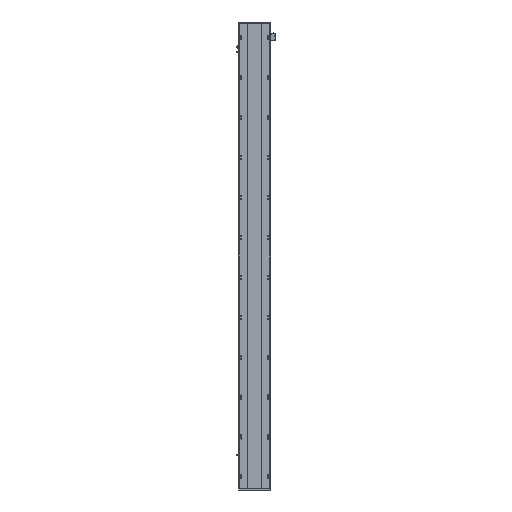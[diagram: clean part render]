
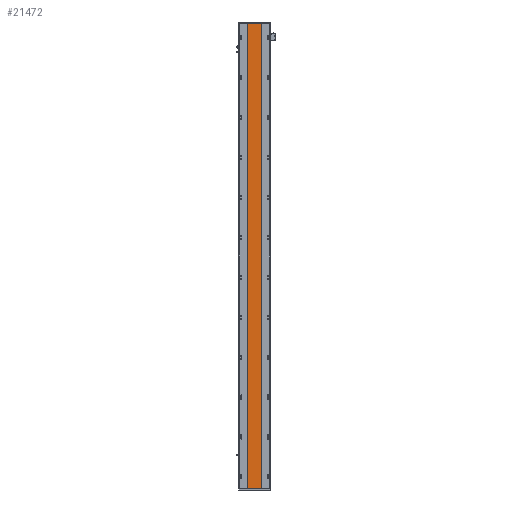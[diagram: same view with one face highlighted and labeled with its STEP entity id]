
A CAD part, front view. The second image highlights one B-rep face of the part: STEP entity #21472.
In plain terms, the highlighted planar face has unit normal (0, -1, 0).
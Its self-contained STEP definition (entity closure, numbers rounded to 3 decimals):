
#1228 = VERTEX_POINT ( 'NONE', #7654 ) ;
#2198 = FACE_OUTER_BOUND ( 'NONE', #24857, .T. ) ;
#3187 = ORIENTED_EDGE ( 'NONE', *, *, #32133, .T. ) ;
#6025 = VERTEX_POINT ( 'NONE', #42601 ) ;
#6649 = CARTESIAN_POINT ( 'NONE',  ( 205.288, 16.9, 0. ) ) ;
#7654 = CARTESIAN_POINT ( 'NONE',  ( 205.288, 16.9, 2512. ) ) ;
#9265 = EDGE_CURVE ( 'NONE', #6025, #32120, #9875, .T. ) ;
#9875 = LINE ( 'NONE', #20071, #40929 ) ;
#14098 = CARTESIAN_POINT ( 'NONE',  ( 205.288, 16.9, 2512. ) ) ;
#15259 = DIRECTION ( 'NONE',  ( -1., 0., 0. ) ) ;
#15588 = AXIS2_PLACEMENT_3D ( 'NONE', #14098, #38629, #15259 ) ;
#18061 = EDGE_CURVE ( 'NONE', #6025, #1228, #24976, .T. ) ;
#20071 = CARTESIAN_POINT ( 'NONE',  ( 129.288, 16.9, 2512. ) ) ;
#20193 = DIRECTION ( 'NONE',  ( 1., 0., 0. ) ) ;
#21472 = ADVANCED_FACE ( 'NONE', ( #2198 ), #34211, .F. ) ;
#22144 = LINE ( 'NONE', #34728, #32134 ) ;
#23404 = DIRECTION ( 'NONE',  ( 1., 0., 0. ) ) ;
#23644 = ORIENTED_EDGE ( 'NONE', *, *, #9265, .T. ) ;
#24857 = EDGE_LOOP ( 'NONE', ( #3187, #39107, #40477, #23644 ) ) ;
#24976 = LINE ( 'NONE', #43597, #33372 ) ;
#26677 = VERTEX_POINT ( 'NONE', #34324 ) ;
#29716 = CARTESIAN_POINT ( 'NONE',  ( 129.288, 16.9, 0. ) ) ;
#29756 = DIRECTION ( 'NONE',  ( 0., 0., -1. ) ) ;
#32120 = VERTEX_POINT ( 'NONE', #29716 ) ;
#32133 = EDGE_CURVE ( 'NONE', #32120, #26677, #36989, .T. ) ;
#32134 = VECTOR ( 'NONE', #41380, 1000. ) ;
#33372 = VECTOR ( 'NONE', #20193, 1000. ) ;
#33429 = EDGE_CURVE ( 'NONE', #1228, #26677, #22144, .T. ) ;
#33816 = VECTOR ( 'NONE', #23404, 1000. ) ;
#34211 = PLANE ( 'NONE',  #15588 ) ;
#34324 = CARTESIAN_POINT ( 'NONE',  ( 205.288, 16.9, 0. ) ) ;
#34728 = CARTESIAN_POINT ( 'NONE',  ( 205.288, 16.9, 2512. ) ) ;
#36989 = LINE ( 'NONE', #6649, #33816 ) ;
#38629 = DIRECTION ( 'NONE',  ( 0., 1., 0. ) ) ;
#39107 = ORIENTED_EDGE ( 'NONE', *, *, #33429, .F. ) ;
#40477 = ORIENTED_EDGE ( 'NONE', *, *, #18061, .F. ) ;
#40929 = VECTOR ( 'NONE', #29756, 1000. ) ;
#41380 = DIRECTION ( 'NONE',  ( 0., 0., -1. ) ) ;
#42601 = CARTESIAN_POINT ( 'NONE',  ( 129.288, 16.9, 2512. ) ) ;
#43597 = CARTESIAN_POINT ( 'NONE',  ( 129.288, 16.9, 2512. ) ) ;
